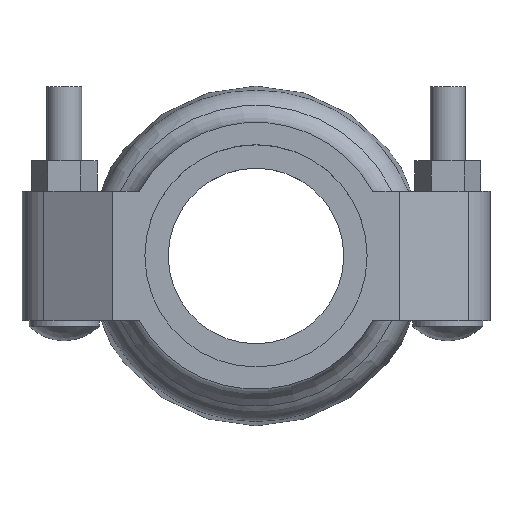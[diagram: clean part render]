
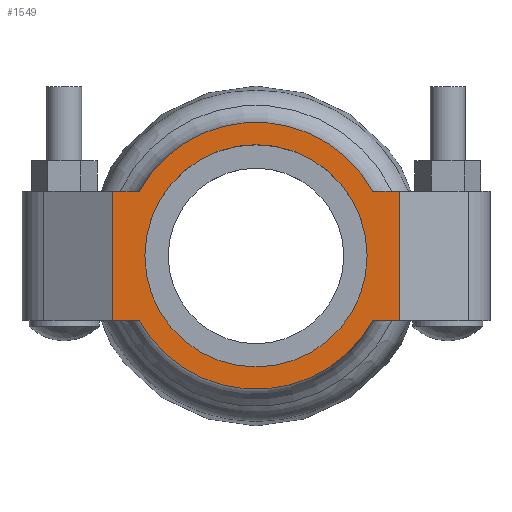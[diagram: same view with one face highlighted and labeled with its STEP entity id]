
A CAD part, top view. The second image highlights one B-rep face of the part: STEP entity #1549.
In plain terms, the highlighted planar face has unit normal (0, 0, 1).
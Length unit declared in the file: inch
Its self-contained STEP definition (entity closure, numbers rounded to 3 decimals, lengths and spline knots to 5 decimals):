
#103=FACE_BOUND('',#301,.T.);
#141=PLANE('',#1695);
#212=FACE_OUTER_BOUND('',#300,.T.);
#300=EDGE_LOOP('',(#1292,#1293,#1294,#1295,#1296,#1297,#1298,#1299));
#301=EDGE_LOOP('',(#1300));
#372=LINE('',#2442,#481);
#384=LINE('',#2563,#493);
#391=LINE('',#2697,#500);
#397=LINE('',#2742,#506);
#406=LINE('',#2811,#515);
#407=LINE('',#2813,#516);
#481=VECTOR('',#1907,0.3937);
#493=VECTOR('',#1939,0.3937);
#500=VECTOR('',#1972,0.3937);
#506=VECTOR('',#1986,0.3937);
#515=VECTOR('',#2007,0.3937);
#516=VECTOR('',#2010,0.3937);
#544=CIRCLE('',#1597,1.1875);
#585=CIRCLE('',#1694,1.426);
#586=CIRCLE('',#1696,1.426);
#610=VERTEX_POINT('',#2182);
#669=VERTEX_POINT('',#2428);
#670=VERTEX_POINT('',#2441);
#692=VERTEX_POINT('',#2560);
#693=VERTEX_POINT('',#2562);
#707=VERTEX_POINT('',#2683);
#708=VERTEX_POINT('',#2696);
#718=VERTEX_POINT('',#2739);
#719=VERTEX_POINT('',#2741);
#754=EDGE_CURVE('',#610,#610,#544,.T.);
#834=EDGE_CURVE('',#669,#670,#372,.T.);
#860=EDGE_CURVE('',#692,#693,#384,.T.);
#883=EDGE_CURVE('',#707,#708,#391,.T.);
#894=EDGE_CURVE('',#718,#719,#397,.T.);
#908=EDGE_CURVE('',#708,#718,#406,.T.);
#909=EDGE_CURVE('',#692,#670,#407,.T.);
#920=EDGE_CURVE('',#719,#669,#585,.T.);
#921=EDGE_CURVE('',#693,#707,#586,.T.);
#1292=ORIENTED_EDGE('',*,*,#921,.F.);
#1293=ORIENTED_EDGE('',*,*,#860,.F.);
#1294=ORIENTED_EDGE('',*,*,#909,.T.);
#1295=ORIENTED_EDGE('',*,*,#834,.F.);
#1296=ORIENTED_EDGE('',*,*,#920,.F.);
#1297=ORIENTED_EDGE('',*,*,#894,.F.);
#1298=ORIENTED_EDGE('',*,*,#908,.F.);
#1299=ORIENTED_EDGE('',*,*,#883,.F.);
#1300=ORIENTED_EDGE('',*,*,#754,.T.);
#1549=ADVANCED_FACE('',(#212,#103),#141,.T.);
#1597=AXIS2_PLACEMENT_3D('',#2184,#1765,#1766);
#1694=AXIS2_PLACEMENT_3D('',#2835,#2048,#2049);
#1695=AXIS2_PLACEMENT_3D('',#2836,#2050,#2051);
#1696=AXIS2_PLACEMENT_3D('',#2837,#2052,#2053);
#1765=DIRECTION('center_axis',(0.,0.,-1.));
#1766=DIRECTION('ref_axis',(1.,0.,0.));
#1907=DIRECTION('',(1.,0.,0.));
#1939=DIRECTION('',(-1.,0.,0.));
#1972=DIRECTION('',(-1.,0.,0.));
#1986=DIRECTION('',(1.,0.,0.));
#2007=DIRECTION('',(0.,1.,0.));
#2010=DIRECTION('',(0.,1.,0.));
#2048=DIRECTION('center_axis',(0.,0.,-1.));
#2049=DIRECTION('ref_axis',(-1.,0.,0.));
#2050=DIRECTION('center_axis',(0.,0.,1.));
#2051=DIRECTION('ref_axis',(-1.,0.,0.));
#2052=DIRECTION('center_axis',(0.,0.,-1.));
#2053=DIRECTION('ref_axis',(-1.,0.,0.));
#2182=CARTESIAN_POINT('',(-1.1875,0.,1.125));
#2184=CARTESIAN_POINT('Origin',(0.,0.,1.125));
#2428=CARTESIAN_POINT('',(1.24795,0.69,1.125));
#2441=CARTESIAN_POINT('',(1.53,0.69,1.125));
#2442=CARTESIAN_POINT('',(-1.53,0.69,1.125));
#2560=CARTESIAN_POINT('',(1.53,-0.69,1.125));
#2562=CARTESIAN_POINT('',(1.24795,-0.69,1.125));
#2563=CARTESIAN_POINT('',(-1.53,-0.69,1.125));
#2683=CARTESIAN_POINT('',(-1.24795,-0.69,1.125));
#2696=CARTESIAN_POINT('',(-1.53,-0.69,1.125));
#2697=CARTESIAN_POINT('',(-1.53,-0.69,1.125));
#2739=CARTESIAN_POINT('',(-1.53,0.69,1.125));
#2741=CARTESIAN_POINT('',(-1.24795,0.69,1.125));
#2742=CARTESIAN_POINT('',(-1.53,0.69,1.125));
#2811=CARTESIAN_POINT('',(-1.53,0.,1.125));
#2813=CARTESIAN_POINT('',(1.53,0.,1.125));
#2835=CARTESIAN_POINT('Origin',(0.,0.,
1.125));
#2836=CARTESIAN_POINT('Origin',(0.,-1.426,1.125));
#2837=CARTESIAN_POINT('Origin',(0.,0.,
1.125));
